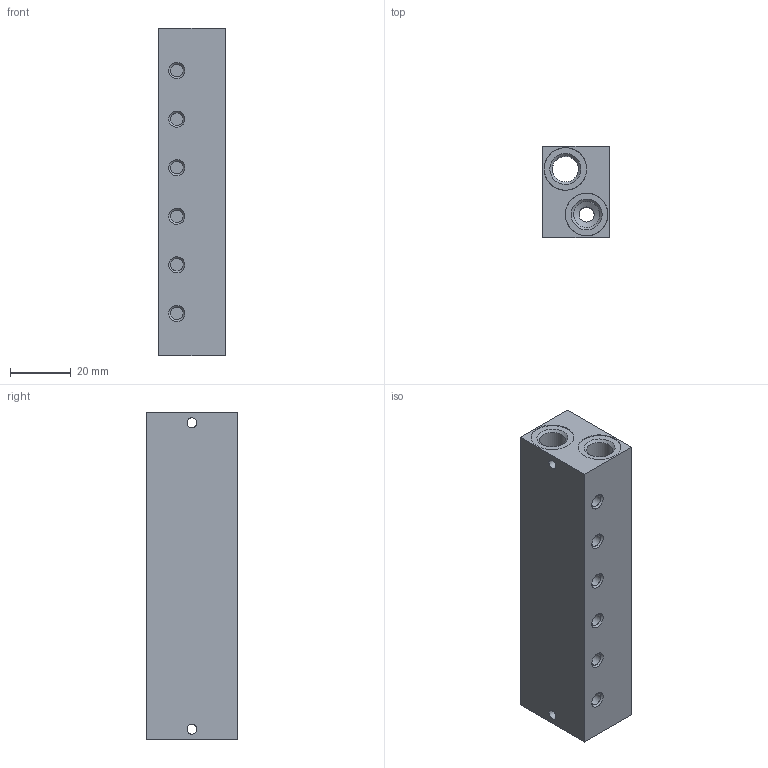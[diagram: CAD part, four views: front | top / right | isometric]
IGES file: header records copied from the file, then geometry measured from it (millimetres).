
Global section: file name: 355_06; native system: Autodesk Inventor 2014; preprocessor: unknown; author: R.Rivoltella; organization: Pneumax S.p.A.; date: 20161003.105255; units: millimetre
Bounding box: 22 x 30 x 108 mm (x, y, z)
Volume: 60636.4 mm3; surface area: 18639.9 mm2
Topology: 1 solids, 1 shells, 84 faces, 248 edges, 178 vertices
Faces by surface type: bspline 84
